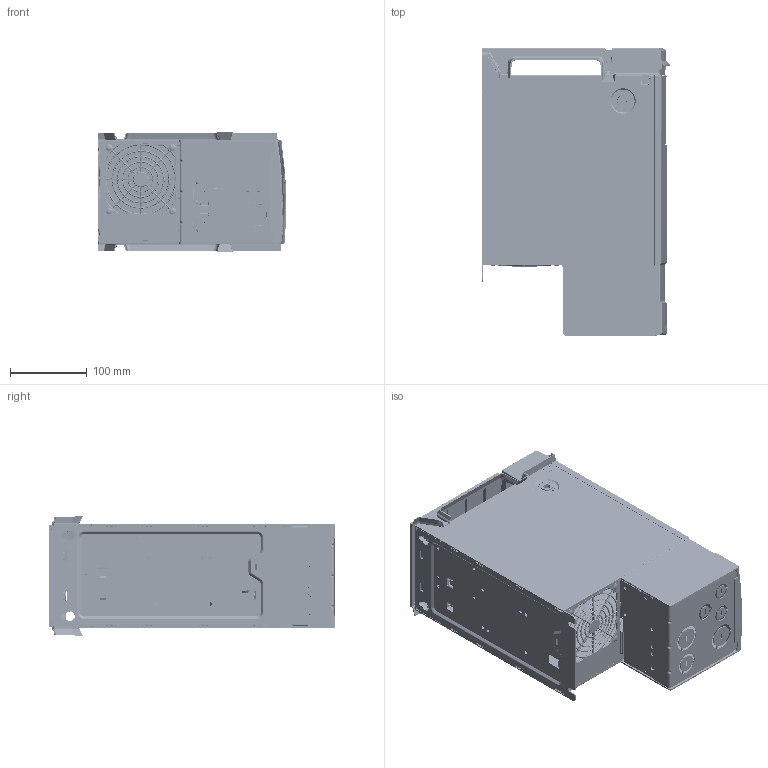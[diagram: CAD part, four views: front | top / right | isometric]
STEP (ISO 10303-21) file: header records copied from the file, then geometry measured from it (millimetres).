
FILE_DESCRIPTION((''),'2;1');
FILE_NAME('PRT0001','2012-11-20T',('u255134'),('Danfoss Power Electronics'),'PRO/ENGINEER BY PARAMETRIC TECHNOLOGY CORPORATION, 2011490','PRO/ENGINEER BY PARAMETRIC TECHNOLOGY CORPORATION, 2011490','');
FILE_SCHEMA(('CONFIG_CONTROL_DESIGN', 'GEOMETRIC_VALIDATION_PROPERTIES_MIM'));
Products named in the file (1): PRT0001
Bounding box: 245.43 x 373.8 x 155.53 mm (x, y, z)
Volume: 904412.7 mm3; surface area: 893526.1 mm2
Topology: 2 solids, 52 shells, 17758 faces, 50067 edges, 32311 vertices
Faces by surface type: plane 12739, cylinder 2828, bspline 1026, sphere 500, torus 347, cone 316, extrusion 2
Entity records: 666927 total; most frequent: CARTESIAN_POINT 235531, ORIENTED_EDGE 98509, DIRECTION 76127, EDGE_CURVE 49564, VERTEX_POINT 32310, VECTOR 30273, LINE 30271, AXIS2_PLACEMENT_3D 22927
